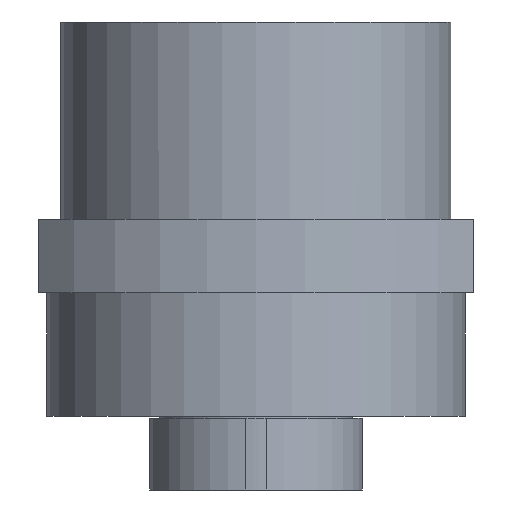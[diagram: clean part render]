
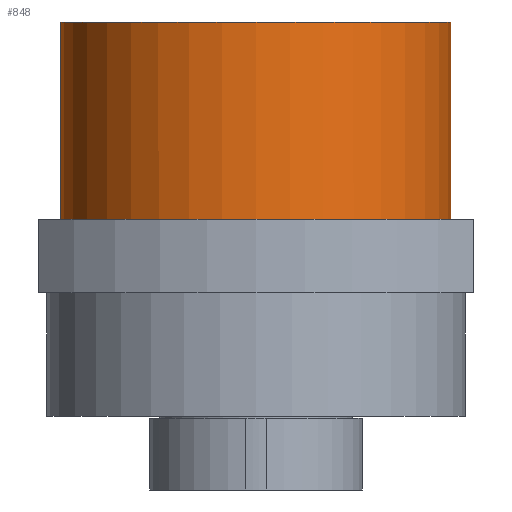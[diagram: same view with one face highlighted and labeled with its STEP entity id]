
A CAD part, front view. The second image highlights one B-rep face of the part: STEP entity #848.
In plain terms, the highlighted cylindrical face has radius 47.5 mm (diameter 95 mm), a full revolution.
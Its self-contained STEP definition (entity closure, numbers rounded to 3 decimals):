
#41=CYLINDRICAL_SURFACE($,#966,47.5);
#151=FACE_BOUND($,#312,.T.);
#219=FACE_OUTER_BOUND($,#311,.T.);
#311=EDGE_LOOP($,(#725));
#312=EDGE_LOOP($,(#726));
#398=CIRCLE($,#967,47.5);
#399=CIRCLE($,#968,47.5);
#474=VERTEX_POINT($,#1461);
#475=VERTEX_POINT($,#1463);
#566=EDGE_CURVE($,#474,#474,#398,.T.);
#567=EDGE_CURVE($,#475,#475,#399,.T.);
#725=ORIENTED_EDGE($,*,*,#566,.F.);
#726=ORIENTED_EDGE($,*,*,#567,.F.);
#848=ADVANCED_FACE($,(#219,#151),#41,.T.);
#966=AXIS2_PLACEMENT_3D($,#1460,#1220,#1221);
#967=AXIS2_PLACEMENT_3D($,#1462,#1222,#1223);
#968=AXIS2_PLACEMENT_3D($,#1464,#1224,#1225);
#1220=DIRECTION('center_axis',(0.,0.,1.));
#1221=DIRECTION('ref_axis',(-1.,0.,0.));
#1222=DIRECTION('center_axis',(0.,0.,1.));
#1223=DIRECTION('ref_axis',(-1.,0.,0.));
#1224=DIRECTION('center_axis',(0.,0.,-1.));
#1225=DIRECTION('ref_axis',(-1.,0.,0.));
#1460=CARTESIAN_POINT('Origin',(0.,0.,34.));
#1461=CARTESIAN_POINT('',(47.5,0.,82.));
#1462=CARTESIAN_POINT('Origin',(0.,0.,82.));
#1463=CARTESIAN_POINT('',(47.5,0.,34.));
#1464=CARTESIAN_POINT('Origin',(0.,0.,34.));
